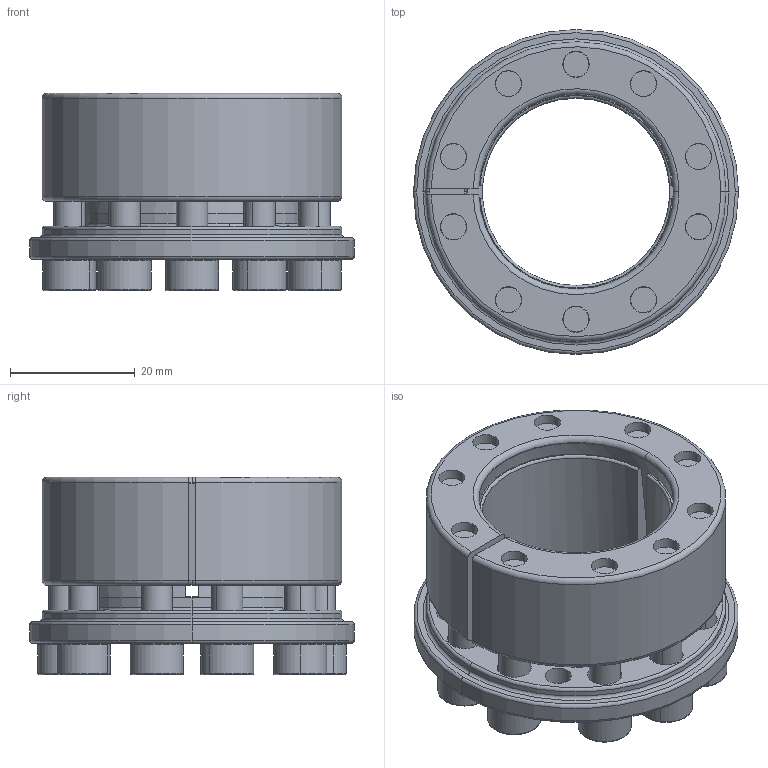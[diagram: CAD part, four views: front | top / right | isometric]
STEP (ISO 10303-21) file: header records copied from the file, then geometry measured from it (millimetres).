
FILE_DESCRIPTION (( 'STEP AP203' ), '1' );
FILE_NAME ('SAPL-A-30-48.STEP', '2013-07-22T09:09:47', ( 'MYCOM' ), ( '' ), 'SwSTEP 2.0', 'SolidWorks 2012', '' );
FILE_SCHEMA (( 'CONFIG_CONTROL_DESIGN' ));
Length unit declared in the file: millimetre
Products named in the file (1): SAPL-A-30-48
Bounding box: 52 x 52 x 31.6 mm (x, y, z)
Volume: 28867.8 mm3; surface area: 15362.1 mm2
Topology: 1 solids, 1 shells, 440 faces, 1090 edges, 651 vertices
Faces by surface type: plane 165, cylinder 118, torus 86, cone 71
Entity records: 13321 total; most frequent: CARTESIAN_POINT 2527, DIRECTION 2465, ORIENTED_EDGE 2140, EDGE_CURVE 1070, AXIS2_PLACEMENT_3D 1010, VERTEX_POINT 651, CIRCLE 569, EDGE_LOOP 491
